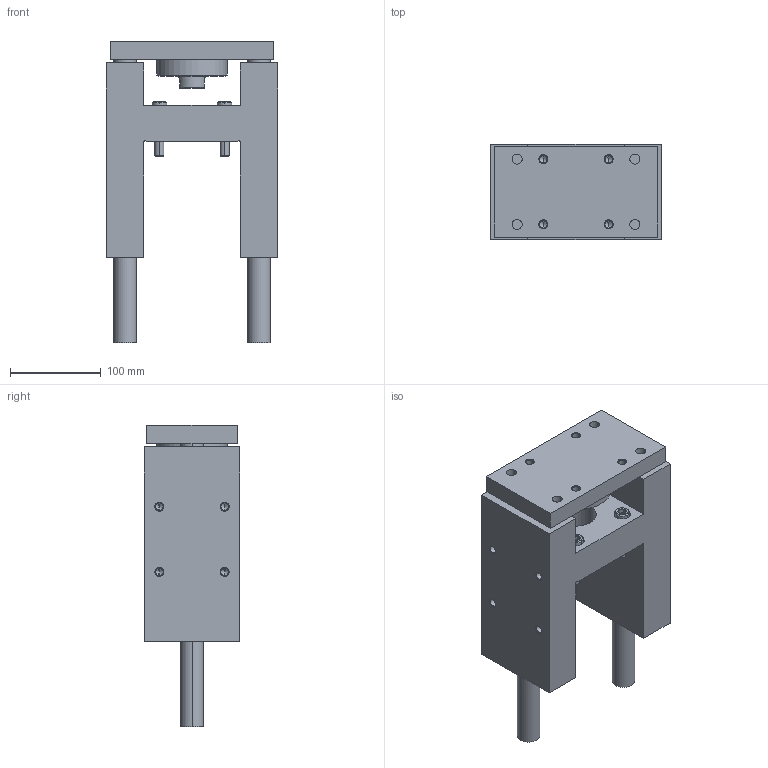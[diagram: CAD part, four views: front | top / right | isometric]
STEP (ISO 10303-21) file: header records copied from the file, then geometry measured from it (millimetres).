
FILE_DESCRIPTION (( 'STEP AP203' ), '1' );
FILE_NAME ('GB80-75.STEP', '2020-04-24T13:27:53', ( '' ), ( '' ), 'SwSTEP 2.0', 'SolidWorks 2019', '' );
FILE_SCHEMA (( 'CONFIG_CONTROL_DESIGN' ));
Length unit declared in the file: millimetre
Products named in the file (1): GB80-75
Bounding box: 189 x 105 x 333 mm (x, y, z)
Volume: 2770066.6 mm3; surface area: 331452.6 mm2
Topology: 6 solids, 6 shells, 329 faces, 728 edges, 412 vertices
Faces by surface type: cone 134, cylinder 98, plane 97
Entity records: 9631 total; most frequent: CARTESIAN_POINT 2242, DIRECTION 1662, ORIENTED_EDGE 1392, EDGE_CURVE 696, AXIS2_PLACEMENT_3D 664, VERTEX_POINT 412, EDGE_LOOP 392, VECTOR 334
